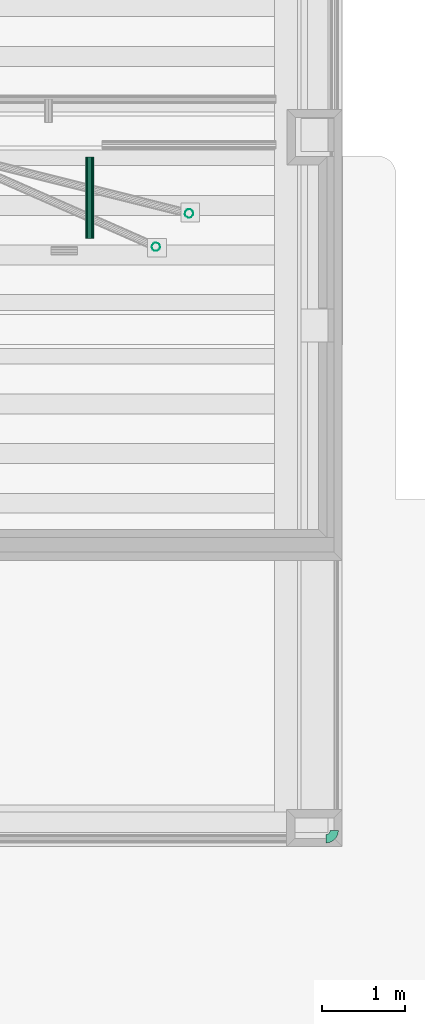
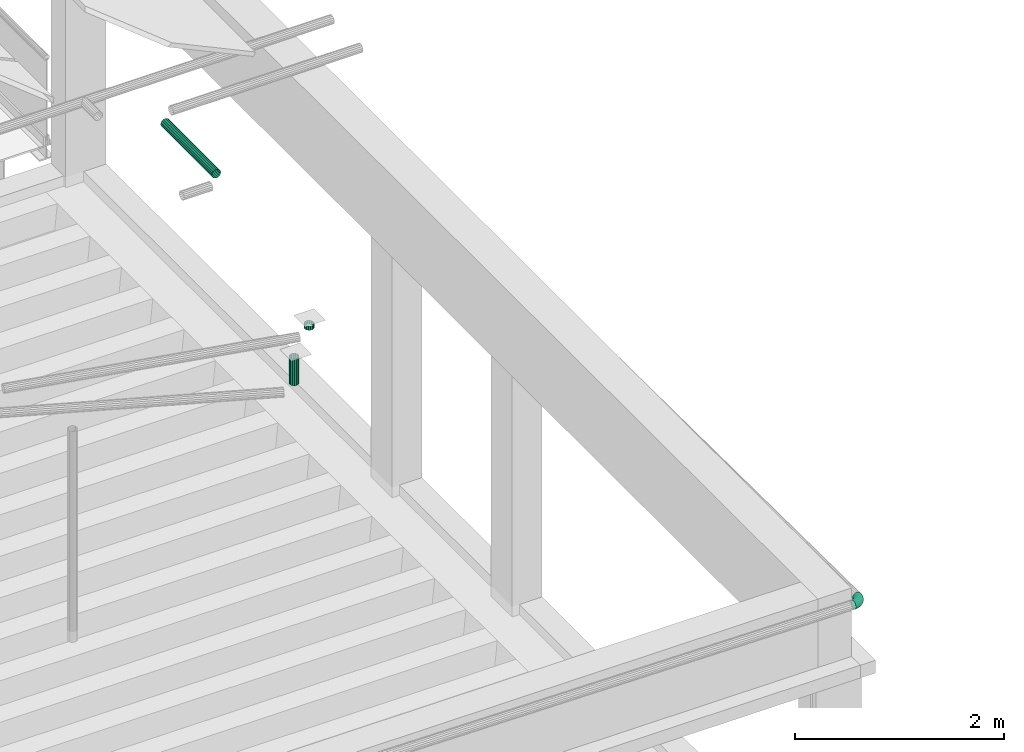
# One storey, part 93 of 106: 3 flow segments, 1 flow fitting.
"""IFC2X3 building model written with IfcOpenShell, lengths in metres."""

import ifcopenshell
import ifcopenshell.guid

model = None  # the IFC model being written
_history = None  # IfcOwnerHistory: only IFC2X3 demands one
_inside = {}  # id of a spatial element -> (the spatial element, [elements in it])
_under = {}  # id of a project, library or spatial element -> (it, [spatial elements below it])
_declared = {}  # id of a project -> (the project, [libraries it declares])
_typed = {}  # id of a type object -> (the type object, [elements of that type])
_made_of = {}  # id of a material, layer set ... -> (it, [elements and type objects made of it])


def new_model(schema):
    """Start an empty IFC model of exactly this schema.

    Asked for "IFC4X3", IfcOpenShell would pick the latest addendum, in which some entities
    have other attributes; the version numbers below select the first issue.
    IFC2X3 requires an IfcOwnerHistory on every rooted entity: one is made here for all.
    """
    global model, _history
    if schema == "IFC4X3":
        model = ifcopenshell.file(schema_version=(4, 3, 0, 0))
    else:
        model = ifcopenshell.file(schema=schema)
    _inside.clear()
    _under.clear()
    _declared.clear()
    _typed.clear()
    _made_of.clear()
    _history = None
    if model.schema == "IFC2X3":
        org = make("IfcOrganization", Name="unknown")
        user = make(
            "IfcPersonAndOrganization",
            ThePerson=make("IfcPerson", FamilyName="unknown"),
            TheOrganization=org,
        )
        app = make(
            "IfcApplication",
            ApplicationDeveloper=org,
            Version="unknown",
            ApplicationFullName="unknown",
            ApplicationIdentifier="unknown",
        )
        _history = make(
            "IfcOwnerHistory",
            OwningUser=user,
            OwningApplication=app,
            ChangeAction="ADDED",
            CreationDate=0,
        )
    return model


def make(cls, **values):
    """One entity of the class cls with the attributes given. An attribute that is None is left unset."""
    return model.create_entity(
        cls, **{name: value for name, value in values.items() if value is not None}
    )


def entity(cls, *values):
    """Any entity or typed value of the class cls, its attributes in the order of the schema. None: left unset."""
    e = model.create_entity(cls)
    for i, value in enumerate(values):
        if value is not None:
            e[i] = value
    return e


def rooted(cls, **values):
    """An entity with a GlobalId (a new one), such as an element, a storey or a relation."""
    return make(cls, GlobalId=ifcopenshell.guid.new(), OwnerHistory=_history, **values)


def si_unit(unit_type, name, prefix=None):
    """IfcSIUnit, for example si_unit("LENGTHUNIT", "METRE", prefix="MILLI")."""
    return make("IfcSIUnit", UnitType=unit_type, Prefix=prefix, Name=name)


def converted_unit(unit_type, name, factor, base, dimensions=None, offset=None):
    """IfcConversionBasedUnit, such as the inch: factor (a typed value) times the base unit."""
    return make(
        "IfcConversionBasedUnit"
        if offset is None
        else "IfcConversionBasedUnitWithOffset",
        ConversionOffset=offset,
        Dimensions=None
        if dimensions is None
        else entity("IfcDimensionalExponents", *dimensions),
        UnitType=unit_type,
        Name=name,
        ConversionFactor=make(
            "IfcMeasureWithUnit", ValueComponent=factor, UnitComponent=base
        ),
    )


def derived_unit(unit_type, elements):
    """IfcDerivedUnit: a product of units, each with its exponent."""
    return make(
        "IfcDerivedUnit",
        Elements=[
            make("IfcDerivedUnitElement", Unit=unit, Exponent=power)
            for unit, power in elements
        ],
        UnitType=unit_type,
    )


def money_unit(currency):
    """IfcMonetaryUnit."""
    return make("IfcMonetaryUnit", Currency=currency)


def assignment(units):
    """IfcUnitAssignment: the units of a project."""
    return None if units is None else make("IfcUnitAssignment", Units=units)


def point(xyz):
    """IfcCartesianPoint."""
    return None if xyz is None else make("IfcCartesianPoint", Coordinates=xyz)


def direction(xyz):
    """IfcDirection."""
    return None if xyz is None else make("IfcDirection", DirectionRatios=xyz)


def frame(location, z_axis=None, x_axis=None):
    """IfcAxis2Placement3D, a coordinate frame: its origin and axes. An axis left out is left unset."""
    return make(
        "IfcAxis2Placement3D",
        Location=point(location),
        Axis=direction(z_axis),
        RefDirection=direction(x_axis),
    )


def origin_with_axes():
    """The frame at (0, 0, 0) with the z axis (0, 0, 1) and the x axis (1, 0, 0) written out."""
    return frame((0.0, 0.0, 0.0), z_axis=(0.0, 0.0, 1.0), x_axis=(1.0, 0.0, 0.0))


def place(relative_to, where):
    """IfcLocalPlacement: puts the frame where relative to a parent placement (None: the world)."""
    return make(
        "IfcLocalPlacement", PlacementRelTo=relative_to, RelativePlacement=where
    )


def context(
    kind, dimensions, precision=None, world=None, true_north=None, identifier=None
):
    """IfcGeometricRepresentationContext, for example the 3D "Model" context."""
    return make(
        "IfcGeometricRepresentationContext",
        ContextIdentifier=identifier,
        ContextType=kind,
        CoordinateSpaceDimension=dimensions,
        Precision=precision,
        WorldCoordinateSystem=world,
        TrueNorth=true_north,
    )


def subcontext(parent, identifier, kind, view, scale=None):
    """IfcGeometricRepresentationSubContext, for example "Body" below "Model"."""
    return make(
        "IfcGeometricRepresentationSubContext",
        ContextIdentifier=identifier,
        ContextType=kind,
        ParentContext=parent,
        TargetScale=scale,
        TargetView=view,
    )


def project(units=None, contexts=None):
    """IfcProject with its units and contexts."""
    return rooted(
        "IfcProject",
        Name="project",
        RepresentationContexts=contexts,
        UnitsInContext=assignment(units),
    )


def spatial(cls, under=None, at=None, **own):
    """A site, building, storey or space (cls), placed at a placement, below another one or the project."""
    s = rooted(cls, ObjectPlacement=at, **own)
    if under is not None:
        _under.setdefault(under.id(), (under, []))[1].append(s)
    return s


def faces_of(points, faces, orient=None, outer=None):
    """IfcFace entities. A face is a list of loops; a loop is a list of indices into points, from 0.

    orient and outer hold one flag for each loop. By default every Orientation is true, the
    first loop of a face is its IfcFaceOuterBound and the others are IfcFaceBound.
    """
    made = []
    for i, loops in enumerate(faces):
        bounds = []
        for j, loop in enumerate(loops):
            is_outer = j == 0 if outer is None else outer[i][j]
            bounds.append(
                make(
                    "IfcFaceOuterBound" if is_outer else "IfcFaceBound",
                    Bound=make("IfcPolyLoop", Polygon=[points[k] for k in loop]),
                    Orientation=True if orient is None else orient[i][j],
                )
            )
        made.append(make("IfcFace", Bounds=bounds))
    return made


def open_shell(faces, orient=None, outer=None):
    """The faces of one IfcOpenShell. surface_model builds it on its shared points."""
    return ("IfcOpenShell", faces, orient, outer)


def faceted_brep(points, faces, orient=None, outer=None, voids=None):
    """IfcFacetedBrep: a solid bounded by flat faces; with voids (closed shells), ...WithVoids."""
    shared = [point(p) for p in points]
    hull = make("IfcClosedShell", CfsFaces=faces_of(shared, faces, orient, outer))
    if voids is None:
        return make("IfcFacetedBrep", Outer=hull)
    return make(
        "IfcFacetedBrepWithVoids",
        Outer=hull,
        Voids=[
            make(cls, CfsFaces=faces_of(shared, fs, o, b)) for cls, fs, o, b in voids
        ],
    )


def surface_model(cls, points, shells):
    """IfcFaceBasedSurfaceModel or IfcShellBasedSurfaceModel (cls): surfaces that need not close."""
    shared = [point(p) for p in points]
    made = [make(c, CfsFaces=faces_of(shared, fs, o, b)) for c, fs, o, b in shells]
    if cls == "IfcFaceBasedSurfaceModel":
        return make(cls, FbsmFaces=made)
    return make(cls, SbsmBoundary=made)


def shape(context_of_items, identifier, shape_type, items):
    """IfcShapeRepresentation: the items that make up one representation, for example the "Body"."""
    return make(
        "IfcShapeRepresentation",
        ContextOfItems=context_of_items,
        RepresentationIdentifier=identifier,
        RepresentationType=shape_type,
        Items=items,
    )


def material(Name=None, Category=None):
    """IfcMaterial."""
    return make("IfcMaterial", Name=Name, Category=Category)


def made_of(thing, what):
    """Note that an element or type object is made of a material, layer set ...; save() writes the relation."""
    if what is not None:
        _made_of.setdefault(what.id(), (what, []))[1].append(thing)
    return thing


def type_object(cls, material=None, **own):
    """A type object (cls), such as IfcWallType, which elements share."""
    return made_of(rooted(cls, **own), material)


def element(
    cls,
    number,
    at=None,
    inside=None,
    cuts=None,
    type_object=None,
    material=None,
    context=None,
    identifier="Body",
    shape_type=None,
    held_by="IfcProductDefinitionShape",
    body=None,
    shapes=None,
    **own,
):
    """One element of the class cls, such as IfcWall. Its Tag is "e" and its number.

    at: its placement. inside: the storey or other place that contains it. cuts: it is an
    opening in that element (IfcRelVoidsElement). A single representation is given by context,
    identifier, shape_type and body (its items); several are given by shapes. held_by: the class
    of the entity that holds the representations. save() writes the other relations.
    """
    e = rooted(cls, Tag="e%d" % number, ObjectPlacement=at, **own)
    if body is not None:
        shapes = [shape(context, identifier, shape_type, body)]
    if shapes is not None:
        e.Representation = make(held_by, Representations=shapes)
    if inside is not None:
        _inside.setdefault(inside.id(), (inside, []))[1].append(e)
    if cuts is not None:
        rooted(
            "IfcRelVoidsElement", RelatingBuildingElement=cuts, RelatedOpeningElement=e
        )
    if type_object is not None:
        _typed.setdefault(type_object.id(), (type_object, []))[1].append(e)
    return made_of(e, material)


def aggregate(whole, parts):
    """IfcRelAggregates: a whole, such as a stair, and the parts it consists of."""
    return rooted("IfcRelAggregates", RelatingObject=whole, RelatedObjects=parts)


def save(model, path):
    """Write the relations noted so far, then the file.

    IfcRelAggregates (storeys below a building ...), IfcRelContainedInSpatialStructure (elements
    in a storey), IfcRelDefinesByType, IfcRelAssociatesMaterial and IfcRelDeclares: one each for
    every whole, place, type object, material and project.
    """
    for whole, parts in _under.values():
        aggregate(whole, parts)
    for where, things in _inside.values():
        rooted(
            "IfcRelContainedInSpatialStructure",
            RelatedElements=things,
            RelatingStructure=where,
        )
    for kind, things in _typed.values():
        rooted("IfcRelDefinesByType", RelatedObjects=things, RelatingType=kind)
    for what, things in _made_of.values():
        rooted("IfcRelAssociatesMaterial", RelatedObjects=things, RelatingMaterial=what)
    for by, libraries in _declared.values():
        rooted("IfcRelDeclares", RelatingContext=by, RelatedDefinitions=libraries)
    model.write(path)


model = new_model("IFC2X3")

# Units and contexts
model_context = context("Model", 3, precision=1e-05, world=origin_with_axes(), true_north=direction((0.0, 1.0)))
body_context = subcontext(model_context, "Body", "Model", "MODEL_VIEW", scale=1.0)
ifc_project = project(units=[si_unit("LENGTHUNIT", "METRE"), si_unit("AREAUNIT", "SQUARE_METRE"), si_unit("VOLUMEUNIT", "CUBIC_METRE"), si_unit("ABSORBEDDOSEUNIT", "GRAY"), si_unit("AMOUNTOFSUBSTANCEUNIT", "MOLE"), si_unit("DOSEEQUIVALENTUNIT", "SIEVERT"), si_unit("ELECTRICCAPACITANCEUNIT", "FARAD"), si_unit("ELECTRICCHARGEUNIT", "COULOMB"), si_unit("ELECTRICCONDUCTANCEUNIT", "SIEMENS"), si_unit("ELECTRICCURRENTUNIT", "AMPERE"), si_unit("ELECTRICRESISTANCEUNIT", "OHM"), si_unit("ELECTRICVOLTAGEUNIT", "VOLT"), si_unit("ENERGYUNIT", "JOULE"), si_unit("FORCEUNIT", "NEWTON"), si_unit("FREQUENCYUNIT", "HERTZ"), si_unit("ILLUMINANCEUNIT", "LUX"), si_unit("INDUCTANCEUNIT", "HENRY"), si_unit("LUMINOUSFLUXUNIT", "LUMEN"), si_unit("LUMINOUSINTENSITYUNIT", "CANDELA"), si_unit("MAGNETICFLUXDENSITYUNIT", "TESLA"), si_unit("MAGNETICFLUXUNIT", "WEBER"), si_unit("MASSUNIT", "GRAM"), converted_unit("PLANEANGLEUNIT", "degree", entity("IfcReal", 0.0174532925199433), si_unit("PLANEANGLEUNIT", "RADIAN"), dimensions=[0, 0, 0, 0, 0, 0, 0]), si_unit("POWERUNIT", "WATT"), si_unit("PRESSUREUNIT", "PASCAL"), si_unit("RADIOACTIVITYUNIT", "BECQUEREL"), si_unit("SOLIDANGLEUNIT", "STERADIAN"), si_unit("THERMODYNAMICTEMPERATUREUNIT", "KELVIN"), si_unit("TIMEUNIT", "SECOND"), derived_unit("ACCELERATIONUNIT", [(si_unit("LENGTHUNIT", "METRE"), 1), (si_unit("TIMEUNIT", "SECOND"), -2)]), derived_unit("ANGULARVELOCITYUNIT", [(converted_unit("PLANEANGLEUNIT", "degree", entity("IfcReal", 0.0174532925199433), si_unit("PLANEANGLEUNIT", "RADIAN"), dimensions=[0, 0, 0, 0, 0, 0, 0]), 1), (si_unit("TIMEUNIT", "SECOND"), -1)]), derived_unit("CURVATUREUNIT", [(converted_unit("PLANEANGLEUNIT", "degree", entity("IfcReal", 0.0174532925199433), si_unit("PLANEANGLEUNIT", "RADIAN"), dimensions=[0, 0, 0, 0, 0, 0, 0]), 1), (si_unit("LENGTHUNIT", "METRE"), -1)]), derived_unit("DYNAMICVISCOSITYUNIT", [(si_unit("PRESSUREUNIT", "PASCAL"), 1), (si_unit("TIMEUNIT", "SECOND"), 1)]), derived_unit("HEATFLUXDENSITYUNIT", [(si_unit("POWERUNIT", "WATT"), 1), (si_unit("LENGTHUNIT", "METRE"), -2)]), derived_unit("HEATINGVALUEUNIT", [(si_unit("ENERGYUNIT", "JOULE"), 1), (si_unit("MASSUNIT", "GRAM"), -1)]), derived_unit("INTEGERCOUNTRATEUNIT", [(si_unit("TIMEUNIT", "SECOND"), -1)]), derived_unit("IONCONCENTRATIONUNIT", [(si_unit("MASSUNIT", "GRAM"), 1), (si_unit("VOLUMEUNIT", "CUBIC_METRE"), -1)]), derived_unit("ISOTHERMALMOISTURECAPACITYUNIT", [(si_unit("VOLUMEUNIT", "CUBIC_METRE"), 1), (si_unit("MASSUNIT", "GRAM"), -1)]), derived_unit("KINEMATICVISCOSITYUNIT", [(si_unit("AREAUNIT", "SQUARE_METRE"), 1), (si_unit("TIMEUNIT", "SECOND"), -1)]), derived_unit("LINEARFORCEUNIT", [(si_unit("FORCEUNIT", "NEWTON"), 1), (si_unit("LENGTHUNIT", "METRE"), -1)]), derived_unit("LINEARMOMENTUNIT", [(si_unit("FORCEUNIT", "NEWTON"), 1), (si_unit("LENGTHUNIT", "METRE"), -1)]), derived_unit("LINEARSTIFFNESSUNIT", [(si_unit("FORCEUNIT", "NEWTON"), 1), (si_unit("LENGTHUNIT", "METRE"), -1)]), derived_unit("LINEARVELOCITYUNIT", [(si_unit("LENGTHUNIT", "METRE"), 1), (si_unit("TIMEUNIT", "SECOND"), -1)]), derived_unit("LUMINOUSINTENSITYDISTRIBUTIONUNIT", [(si_unit("LUMINOUSINTENSITYUNIT", "CANDELA"), 1), (si_unit("LUMINOUSFLUXUNIT", "LUMEN"), -1)]), derived_unit("MASSDENSITYUNIT", [(si_unit("MASSUNIT", "GRAM"), 1), (si_unit("VOLUMEUNIT", "CUBIC_METRE"), -1)]), derived_unit("MASSFLOWRATEUNIT", [(si_unit("MASSUNIT", "GRAM"), 1), (si_unit("TIMEUNIT", "SECOND"), -1)]), derived_unit("MASSPERLENGTHUNIT", [(si_unit("MASSUNIT", "GRAM"), 1), (si_unit("LENGTHUNIT", "METRE"), -1)]), derived_unit("MODULUSOFELASTICITYUNIT", [(si_unit("FORCEUNIT", "NEWTON"), 1), (si_unit("AREAUNIT", "SQUARE_METRE"), -1)]), derived_unit("MODULUSOFLINEARSUBGRADEREACTIONUNIT", [(si_unit("FORCEUNIT", "NEWTON"), 1), (si_unit("LENGTHUNIT", "METRE"), -2)]), derived_unit("MODULUSOFROTATIONALSUBGRADEREACTIONUNIT", [(si_unit("FORCEUNIT", "NEWTON"), 1), (si_unit("LENGTHUNIT", "METRE"), 1)]), derived_unit("MODULUSOFSUBGRADEREACTIONUNIT", [(si_unit("FORCEUNIT", "NEWTON"), 1), (si_unit("VOLUMEUNIT", "CUBIC_METRE"), -1)]), derived_unit("MOISTUREDIFFUSIVITYUNIT", [(si_unit("VOLUMEUNIT", "CUBIC_METRE"), 1), (si_unit("TIMEUNIT", "SECOND"), -1)]), derived_unit("MOLECULARWEIGHTUNIT", [(si_unit("MASSUNIT", "GRAM"), 1), (si_unit("AMOUNTOFSUBSTANCEUNIT", "MOLE"), -1)]), derived_unit("PLANARFORCEUNIT", [(si_unit("FORCEUNIT", "NEWTON"), 1), (si_unit("LENGTHUNIT", "METRE"), -2)]), derived_unit("ROTATIONALFREQUENCYUNIT", [(si_unit("TIMEUNIT", "SECOND"), -1)]), derived_unit("ROTATIONALMASSUNIT", [(si_unit("MASSUNIT", "GRAM"), 1), (si_unit("LENGTHUNIT", "METRE"), 2)]), derived_unit("ROTATIONALSTIFFNESSUNIT", [(si_unit("FORCEUNIT", "NEWTON"), 1), (si_unit("LENGTHUNIT", "METRE"), 1), (converted_unit("PLANEANGLEUNIT", "degree", entity("IfcReal", 0.0174532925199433), si_unit("PLANEANGLEUNIT", "RADIAN"), dimensions=[0, 0, 0, 0, 0, 0, 0]), -1)]), derived_unit("SECTIONAREAINTEGRALUNIT", [(si_unit("LENGTHUNIT", "METRE"), 5)]), derived_unit("SECTIONMODULUSUNIT", [(si_unit("LENGTHUNIT", "METRE"), 3)]), derived_unit("SHEARMODULUSUNIT", [(si_unit("FORCEUNIT", "NEWTON"), 1), (si_unit("AREAUNIT", "SQUARE_METRE"), -1)]), derived_unit("SOUNDPOWERUNIT", [(si_unit("ENERGYUNIT", "JOULE"), 1), (si_unit("TIMEUNIT", "SECOND"), -1)]), derived_unit("SPECIFICHEATCAPACITYUNIT", [(si_unit("FORCEUNIT", "NEWTON"), 1), (si_unit("MASSUNIT", "GRAM"), -1), (si_unit("THERMODYNAMICTEMPERATUREUNIT", "KELVIN"), -1)]), derived_unit("TEMPERATUREGRADIENTUNIT", [(si_unit("THERMODYNAMICTEMPERATUREUNIT", "KELVIN"), 1), (si_unit("LENGTHUNIT", "METRE"), -1)]), derived_unit("THERMALADMITTANCEUNIT", [(si_unit("POWERUNIT", "WATT"), 1), (si_unit("AREAUNIT", "SQUARE_METRE"), -1), (si_unit("THERMODYNAMICTEMPERATUREUNIT", "KELVIN"), -1)]), derived_unit("THERMALCONDUCTANCEUNIT", [(si_unit("POWERUNIT", "WATT"), 1), (si_unit("LENGTHUNIT", "METRE"), -1), (si_unit("THERMODYNAMICTEMPERATUREUNIT", "KELVIN"), -1)]), derived_unit("THERMALEXPANSIONCOEFFICIENTUNIT", [(si_unit("THERMODYNAMICTEMPERATUREUNIT", "KELVIN"), -1)]), derived_unit("THERMALRESISTANCEUNIT", [(si_unit("AREAUNIT", "SQUARE_METRE"), 1), (si_unit("POWERUNIT", "WATT"), -1)]), derived_unit("THERMALTRANSMITTANCEUNIT", [(si_unit("POWERUNIT", "WATT"), 1), (si_unit("AREAUNIT", "SQUARE_METRE"), -1), (si_unit("THERMODYNAMICTEMPERATUREUNIT", "KELVIN"), -1)]), derived_unit("TORQUEUNIT", [(si_unit("FORCEUNIT", "NEWTON"), 1), (si_unit("LENGTHUNIT", "METRE"), 1)]), derived_unit("VAPORPERMEABILITYUNIT", [(si_unit("MASSUNIT", "GRAM"), 1), (si_unit("TIMEUNIT", "SECOND"), -1)]), derived_unit("VOLUMETRICFLOWRATEUNIT", [(si_unit("VOLUMEUNIT", "CUBIC_METRE"), 1), (si_unit("TIMEUNIT", "SECOND"), -1)]), derived_unit("WARPINGCONSTANTUNIT", [(si_unit("LENGTHUNIT", "METRE"), 6)]), derived_unit("WARPINGMOMENTUNIT", [(si_unit("FORCEUNIT", "NEWTON"), 1), (si_unit("LENGTHUNIT", "METRE"), 2)]), money_unit("GBP")], contexts=[model_context])

# Site, building, storey
site_placement = place(None, origin_with_axes())
site = spatial("IfcSite", under=ifc_project, at=site_placement, Name="Site", CompositionType="ELEMENT")
building_placement = place(site_placement, origin_with_axes())
building = spatial("IfcBuilding", under=site, at=building_placement, Name="Building01", CompositionType="ELEMENT")
storey_placement = place(building_placement, origin_with_axes())
storey = spatial("IfcBuildingStorey", under=building, at=storey_placement, Name="GF", CompositionType="ELEMENT", Elevation=0.0)

# Flow segments
ifc_material_1 = material(Name="M_BSUK_Ventilation")
duct_segment_type = type_object("IfcDuctSegmentType", Name="M-RoundDuct", PredefinedType="RIGIDSEGMENT")
flow_segment_1_placement = place(storey_placement, frame((23.93, 8.332559, 17.28), z_axis=(0.0, 0.0, 1.0), x_axis=(0.0, -1.0, 0.0)))
element("IfcFlowSegment", 1, at=flow_segment_1_placement, inside=storey, type_object=duct_segment_type, material=ifc_material_1, Name="M-RoundDuct", ObjectType="M-RoundDuct", context=body_context, shape_type="Brep", body=[
    faceted_brep([(0.982619, 0.0, -0.05), (0.0, 0.0, -0.05), (0.0, 0.019134, -0.046194), (0.982619, 0.019134, -0.046194), (0.0, 0.035355, -0.035355), (0.982619, 0.035355, -0.035355), (0.0, 0.046194, -0.019134), (0.982619, 0.046194, -0.019134), (0.0, 0.05, 0.0), (0.982619, 0.05, 0.0), (0.0, 0.046194, 0.019134), (0.982619, 0.046194, 0.019134), (0.0, 0.035355, 0.035355), (0.982619, 0.035355, 0.035355), (0.0, 0.019134, 0.046194), (0.982619, 0.019134, 0.046194), (0.0, 0.0, 0.05), (0.982619, 0.0, 0.05), (0.0, -0.019134, 0.046194), (0.982619, -0.019134, 0.046194), (0.0, -0.035355, 0.035355), (0.982619, -0.035355, 0.035355), (0.0, -0.046194, 0.019134), (0.982619, -0.046194, 0.019134), (0.0, -0.05, 0.0), (0.982619, -0.05, 0.0), (0.0, -0.046194, -0.019134), (0.982619, -0.046194, -0.019134), (0.0, -0.035355, -0.035355), (0.982619, -0.035355, -0.035355), (0.0, -0.019134, -0.046194), (0.982619, -0.019134, -0.046194)], [[[0, 1, 2, 3]], [[3, 2, 4, 5]], [[5, 4, 6, 7]], [[7, 6, 8, 9]], [[9, 8, 10, 11]], [[11, 10, 12, 13]], [[13, 12, 14, 15]], [[15, 14, 16, 17]], [[17, 16, 18, 19]], [[19, 18, 20, 21]], [[21, 20, 22, 23]], [[23, 22, 24, 25]], [[25, 24, 26, 27]], [[27, 26, 28, 29]], [[29, 28, 30, 31]], [[31, 30, 1, 0]]]),
])
ifc_material_2 = material(Name="M_BSUK_ColdWater")
pipe_segment_type = type_object("IfcPipeSegmentType", Name="M-BmpStraightpipe-DefaultPipe", PredefinedType="RIGIDSEGMENT")
flow_segment_2_placement = place(storey_placement, frame((25.13, 7.651472, 14.93), z_axis=(0.96788929, -0.25137684, 0.0), x_axis=(0.0, 0.0, -1.0)))
element("IfcFlowSegment", 2, at=flow_segment_2_placement, inside=storey, type_object=pipe_segment_type, material=ifc_material_2, Name="M-BmpStraightpipe-DefaultPipe", ObjectType="M-BmpStraightpipe-DefaultPipe", context=body_context, shape_type="Brep", body=[
    faceted_brep([(0.05, 0.0, -0.05), (0.0, 0.0, -0.05), (0.0, 0.019134, -0.046194), (0.05, 0.019134, -0.046194), (0.0, 0.035355, -0.035355), (0.05, 0.035355, -0.035355), (0.0, 0.046194, -0.019134), (0.05, 0.046194, -0.019134), (0.0, 0.05, 0.0), (0.05, 0.05, 0.0), (0.0, 0.046194, 0.019134), (0.05, 0.046194, 0.019134), (0.0, 0.035355, 0.035355), (0.05, 0.035355, 0.035355), (0.0, 0.019134, 0.046194), (0.05, 0.019134, 0.046194), (0.0, 0.0, 0.05), (0.05, 0.0, 0.05), (0.0, -0.019134, 0.046194), (0.05, -0.019134, 0.046194), (0.0, -0.035355, 0.035355), (0.05, -0.035355, 0.035355), (0.0, -0.046194, 0.019134), (0.05, -0.046194, 0.019134), (0.0, -0.05, 0.0), (0.05, -0.05, 0.0), (0.0, -0.046194, -0.019134), (0.05, -0.046194, -0.019134), (0.0, -0.035355, -0.035355), (0.05, -0.035355, -0.035355), (0.0, -0.019134, -0.046194), (0.05, -0.019134, -0.046194)], [[[0, 1, 2, 3]], [[3, 2, 4, 5]], [[5, 4, 6, 7]], [[7, 6, 8, 9]], [[9, 8, 10, 11]], [[11, 10, 12, 13]], [[13, 12, 14, 15]], [[15, 14, 16, 17]], [[17, 16, 18, 19]], [[19, 18, 20, 21]], [[21, 20, 22, 23]], [[23, 22, 24, 25]], [[25, 24, 26, 27]], [[27, 26, 28, 29]], [[29, 28, 30, 31]], [[31, 30, 1, 0]]]),
])
flow_segment_3_placement = place(storey_placement, frame((24.73, 7.248528, 14.93), z_axis=(0.66617726, -0.74579344, 0.0), x_axis=(0.0, 0.0, -1.0)))
element("IfcFlowSegment", 3, at=flow_segment_3_placement, inside=storey, type_object=pipe_segment_type, material=ifc_material_2, Name="M-BmpStraightpipe-DefaultPipe", ObjectType="M-BmpStraightpipe-DefaultPipe", context=body_context, shape_type="Brep", body=[
    faceted_brep([(0.315312, 0.0, -0.05), (0.0, 0.0, -0.05), (0.0, 0.019134, -0.046194), (0.315312, 0.019134, -0.046194), (0.0, 0.035355, -0.035355), (0.315312, 0.035355, -0.035355), (0.0, 0.046194, -0.019134), (0.315312, 0.046194, -0.019134), (0.0, 0.05, 0.0), (0.315312, 0.05, 0.0), (0.0, 0.046194, 0.019134), (0.315312, 0.046194, 0.019134), (0.0, 0.035355, 0.035355), (0.315312, 0.035355, 0.035355), (0.0, 0.019134, 0.046194), (0.315312, 0.019134, 0.046194), (0.0, 0.0, 0.05), (0.315312, 0.0, 0.05), (0.0, -0.019134, 0.046194), (0.315312, -0.019134, 0.046194), (0.0, -0.035355, 0.035355), (0.315312, -0.035355, 0.035355), (0.0, -0.046194, 0.019134), (0.315312, -0.046194, 0.019134), (0.0, -0.05, 0.0), (0.315312, -0.05, 0.0), (0.0, -0.046194, -0.019134), (0.315312, -0.046194, -0.019134), (0.0, -0.035355, -0.035355), (0.315312, -0.035355, -0.035355), (0.0, -0.019134, -0.046194), (0.315312, -0.019134, -0.046194)], [[[0, 1, 2, 3]], [[3, 2, 4, 5]], [[5, 4, 6, 7]], [[7, 6, 8, 9]], [[9, 8, 10, 11]], [[11, 10, 12, 13]], [[13, 12, 14, 15]], [[15, 14, 16, 17]], [[17, 16, 18, 19]], [[19, 18, 20, 21]], [[21, 20, 22, 23]], [[23, 22, 24, 25]], [[25, 24, 26, 27]], [[27, 26, 28, 29]], [[29, 28, 30, 31]], [[31, 30, 1, 0]]]),
])

# Flow fitting
pipe_fitting_type = type_object("IfcPipeFittingType", Name="M-BmpElbow-DefaultElbow", PredefinedType="BEND")
flow_fitting_placement = place(storey_placement, frame((26.885, 0.19497, 15.640002), z_axis=(1.0, 0.0, 0.0), x_axis=(0.0, 1.0, 0.0)))
element("IfcFlowFitting", 4, at=flow_fitting_placement, inside=storey, type_object=pipe_fitting_type, material=ifc_material_2, Name="M-BmpElbow-DefaultElbow", ObjectType="M-BmpElbow-DefaultElbow", context=body_context, shape_type="SurfaceModel", body=[
    surface_model("IfcShellBasedSurfaceModel", [(-0.008009, -0.01349, -0.048768), (0.0, -0.01349, -0.048146), (0.0, 0.0, -0.05), (-0.007723, 0.0, -0.0506), (-0.015826, -0.01349, -0.05062), (-0.015261, 0.0, -0.052386), (-0.023264, -0.01349, -0.053657), (-0.022432, 0.0, -0.055314), (-0.030143, -0.01349, -0.057807), (-0.029065, 0.0, -0.059315), (-0.036298, -0.01349, -0.062969), (-0.035, 0.0, -0.064293), (-0.041582, -0.01349, -0.06902), (-0.040095, 0.0, -0.070127), (-0.045868, -0.01349, -0.075814), (-0.044228, 0.0, -0.076679), (-0.049054, -0.01349, -0.083189), (-0.0473, 0.0, -0.08379), (-0.051061, -0.01349, -0.090968), (-0.049236, 0.0, -0.091291), (-0.051844, -0.01349, -0.098963), (-0.04999, 0.0, -0.099), (-0.008847, -0.025979, -0.043408), (0.0, -0.025979, -0.042721), (-0.017482, -0.025979, -0.045454), (-0.025697, -0.025979, -0.048809), (-0.033296, -0.025979, -0.053392), (-0.040095, -0.025979, -0.059095), (-0.045932, -0.025979, -0.065779), (-0.050667, -0.025979, -0.073284), (-0.054185, -0.025979, -0.081431), (-0.056403, -0.025979, -0.090023), (-0.057268, -0.025979, -0.098855), (-0.010175, -0.036542, -0.034918), (0.0, -0.036542, -0.034128), (-0.020105, -0.036542, -0.037271), (-0.029553, -0.036542, -0.041129), (-0.038291, -0.036542, -0.0464), (-0.046111, -0.036542, -0.052958), (-0.052823, -0.036542, -0.060645), (-0.058268, -0.036542, -0.069276), (-0.062315, -0.036542, -0.078645), (-0.064865, -0.036542, -0.088526), (-0.065859, -0.036542, -0.098683), (-0.011893, -0.044394, -0.023927), (0.0, -0.044394, -0.023003), (-0.0235, -0.044394, -0.026677), (-0.034544, -0.044394, -0.031187), (-0.044758, -0.044394, -0.037348), (-0.053898, -0.044394, -0.045013), (-0.061744, -0.044394, -0.053998), (-0.068109, -0.044394, -0.064087), (-0.072838, -0.044394, -0.075038), (-0.07582, -0.044394, -0.086588), (-0.076981, -0.044394, -0.09846), (-0.013875, -0.048954, -0.011251), (0.0, -0.048954, -0.010173), (-0.027416, -0.048954, -0.014459), (-0.0403, -0.048954, -0.01972), (-0.052216, -0.048954, -0.026908), (-0.062879, -0.048954, -0.035851), (-0.072033, -0.048954, -0.046333), (-0.079458, -0.048954, -0.058103), (-0.084976, -0.048954, -0.070879), (-0.088454, -0.048954, -0.084353), (-0.089809, -0.048954, -0.098204), (-0.015973, -0.049883, 0.002171), (0.0, -0.049883, 0.003412), (-0.031562, -0.049883, -0.001522), (-0.046394, -0.049883, -0.007579), (-0.060113, -0.049883, -0.015854), (-0.072389, -0.049883, -0.026149), (-0.082927, -0.049883, -0.038216), (-0.091475, -0.049883, -0.051767), (-0.097827, -0.049883, -0.066475), (-0.101831, -0.049883, -0.081987), (-0.103391, -0.049883, -0.097932), (-0.018032, -0.047113, 0.015343), (0.0, -0.047113, 0.016744), (-0.035632, -0.047113, 0.011174), (-0.052376, -0.047113, 0.004336), (-0.067863, -0.047113, -0.005006), (-0.081721, -0.047113, -0.016628), (-0.093618, -0.047113, -0.030251), (-0.103268, -0.047113, -0.045548), (-0.110439, -0.047113, -0.062153), (-0.114959, -0.047113, -0.079665), (-0.116721, -0.047113, -0.097665), (-0.0199, -0.040848, 0.027288), (0.0, -0.040848, 0.028834), (-0.039322, -0.040848, 0.022687), (-0.0578, -0.040848, 0.015141), (-0.074891, -0.040848, 0.004831), (-0.090184, -0.040848, -0.007994), (-0.103313, -0.040848, -0.023028), (-0.113962, -0.040848, -0.039909), (-0.121876, -0.040848, -0.058233), (-0.126865, -0.040848, -0.077559), (-0.128808, -0.040848, -0.097424), (-0.021437, -0.031554, 0.03712), (0.0, -0.031554, 0.038786), (-0.042359, -0.031554, 0.032163), (-0.062264, -0.031554, 0.024035), (-0.080675, -0.031554, 0.012929), (-0.09715, -0.031554, -0.000887), (-0.111293, -0.031554, -0.017083), (-0.122765, -0.031554, -0.035268), (-0.13129, -0.031554, -0.055007), (-0.136664, -0.031554, -0.075826), (-0.138758, -0.031554, -0.097225), (-0.022529, -0.01992, 0.04411), (0.0, -0.01992, 0.045861), (-0.044518, -0.01992, 0.038901), (-0.065438, -0.01992, 0.030358), (-0.084788, -0.01992, 0.018686), (-0.102103, -0.01992, 0.004165), (-0.116966, -0.01992, -0.012856), (-0.129023, -0.01992, -0.031968), (-0.137983, -0.01992, -0.052713), (-0.143631, -0.01992, -0.074593), (-0.145831, -0.01992, -0.097083), (-0.023097, -0.006808, 0.04774), (0.0, -0.006808, 0.049534), (-0.045639, -0.006808, 0.042399), (-0.067087, -0.006808, 0.033641), (-0.086924, -0.006808, 0.021675), (-0.104674, -0.006808, 0.006789), (-0.119912, -0.006808, -0.010661), (-0.132273, -0.006808, -0.030254), (-0.141458, -0.006808, -0.051522), (-0.147248, -0.006808, -0.073953), (-0.149504, -0.006808, -0.09701), (-0.023097, 0.006808, 0.04774), (0.0, 0.006808, 0.049534), (-0.045639, 0.006808, 0.042399), (-0.067087, 0.006808, 0.033641), (-0.086924, 0.006808, 0.021675), (-0.104674, 0.006808, 0.006789), (-0.119912, 0.006808, -0.010661), (-0.132273, 0.006808, -0.030254), (-0.141458, 0.006808, -0.051522), (-0.147248, 0.006808, -0.073953), (-0.149504, 0.006808, -0.09701), (-0.022529, 0.01992, 0.04411), (0.0, 0.01992, 0.045861), (-0.044518, 0.01992, 0.038901), (-0.065438, 0.01992, 0.030358), (-0.084788, 0.01992, 0.018686), (-0.102103, 0.01992, 0.004165), (-0.116966, 0.01992, -0.012856), (-0.129023, 0.01992, -0.031968), (-0.137983, 0.01992, -0.052713), (-0.143631, 0.01992, -0.074593), (-0.145831, 0.01992, -0.097083), (-0.021437, 0.031554, 0.03712), (0.0, 0.031554, 0.038786), (-0.042359, 0.031554, 0.032163), (-0.062264, 0.031554, 0.024035), (-0.080675, 0.031554, 0.012929), (-0.09715, 0.031554, -0.000887), (-0.111293, 0.031554, -0.017083), (-0.122765, 0.031554, -0.035268), (-0.13129, 0.031554, -0.055007), (-0.136664, 0.031554, -0.075826), (-0.138758, 0.031554, -0.097225), (-0.0199, 0.040848, 0.027288), (0.0, 0.040848, 0.028834), (-0.039322, 0.040848, 0.022687), (-0.0578, 0.040848, 0.015141), (-0.074891, 0.040848, 0.004831), (-0.090184, 0.040848, -0.007994), (-0.103313, 0.040848, -0.023028), (-0.113962, 0.040848, -0.039909), (-0.121876, 0.040848, -0.058233), (-0.126865, 0.040848, -0.077559), (-0.128808, 0.040848, -0.097424), (-0.018032, 0.047113, 0.015343), (0.0, 0.047113, 0.016744), (-0.035632, 0.047113, 0.011174), (-0.052376, 0.047113, 0.004336), (-0.067863, 0.047113, -0.005006), (-0.081721, 0.047113, -0.016628), (-0.093618, 0.047113, -0.030251), (-0.103268, 0.047113, -0.045548), (-0.110439, 0.047113, -0.062153), (-0.114959, 0.047113, -0.079665), (-0.116721, 0.047113, -0.097665), (-0.015973, 0.049883, 0.002171), (0.0, 0.049883, 0.003412), (-0.031562, 0.049883, -0.001522), (-0.046394, 0.049883, -0.007579), (-0.060113, 0.049883, -0.015854), (-0.072389, 0.049883, -0.026149), (-0.082927, 0.049883, -0.038216), (-0.091475, 0.049883, -0.051767), (-0.097827, 0.049883, -0.066475), (-0.101831, 0.049883, -0.081987), (-0.103391, 0.049883, -0.097932), (-0.013875, 0.048954, -0.011251), (0.0, 0.048954, -0.010173), (-0.027416, 0.048954, -0.014459), (-0.0403, 0.048954, -0.01972), (-0.052216, 0.048954, -0.026908), (-0.062879, 0.048954, -0.035851), (-0.072033, 0.048954, -0.046333), (-0.079458, 0.048954, -0.058103), (-0.084976, 0.048954, -0.070879), (-0.088454, 0.048954, -0.084353), (-0.089809, 0.048954, -0.098204), (-0.011893, 0.044394, -0.023927), (0.0, 0.044394, -0.023003), (-0.0235, 0.044394, -0.026677), (-0.034544, 0.044394, -0.031187), (-0.044758, 0.044394, -0.037348), (-0.053898, 0.044394, -0.045013), (-0.061744, 0.044394, -0.053998), (-0.068109, 0.044394, -0.064087), (-0.072838, 0.044394, -0.075038), (-0.07582, 0.044394, -0.086588), (-0.076981, 0.044394, -0.09846), (-0.010175, 0.036542, -0.034918), (0.0, 0.036542, -0.034128), (-0.020105, 0.036542, -0.037271), (-0.029553, 0.036542, -0.041129), (-0.038291, 0.036542, -0.0464), (-0.046111, 0.036542, -0.052958), (-0.052823, 0.036542, -0.060645), (-0.058268, 0.036542, -0.069276), (-0.062315, 0.036542, -0.078645), (-0.064865, 0.036542, -0.088526), (-0.065859, 0.036542, -0.098683), (-0.008847, 0.025979, -0.043408), (0.0, 0.025979, -0.042721), (-0.017482, 0.025979, -0.045454), (-0.025697, 0.025979, -0.048809), (-0.033296, 0.025979, -0.053392), (-0.040095, 0.025979, -0.059095), (-0.045932, 0.025979, -0.065779), (-0.050667, 0.025979, -0.073284), (-0.054185, 0.025979, -0.081431), (-0.056403, 0.025979, -0.090023), (-0.057268, 0.025979, -0.098855), (-0.008009, 0.01349, -0.048768), (0.0, 0.01349, -0.048146), (-0.015826, 0.01349, -0.05062), (-0.023264, 0.01349, -0.053657), (-0.030143, 0.01349, -0.057807), (-0.036298, 0.01349, -0.062969), (-0.041582, 0.01349, -0.06902), (-0.045868, 0.01349, -0.075814), (-0.049054, 0.01349, -0.083189), (-0.051061, 0.01349, -0.090968), (-0.051844, 0.01349, -0.098963)], [open_shell([[[0, 1, 2, 3]], [[4, 0, 3, 5]], [[6, 4, 5, 7]], [[8, 6, 7, 9]], [[10, 8, 9, 11]], [[12, 10, 11, 13]], [[14, 12, 13, 15]], [[16, 14, 15, 17]], [[18, 16, 17, 19]], [[20, 18, 19, 21]], [[22, 23, 1, 0]], [[24, 22, 0, 4]], [[25, 24, 4, 6]], [[26, 25, 6, 8]], [[27, 26, 8, 10]], [[28, 27, 10, 12]], [[29, 28, 12, 14]], [[30, 29, 14, 16]], [[31, 30, 16, 18]], [[32, 31, 18, 20]], [[33, 34, 23, 22]], [[35, 33, 22, 24]], [[36, 35, 24, 25]], [[37, 36, 25, 26]], [[38, 37, 26, 27]], [[39, 38, 27, 28]], [[40, 39, 28, 29]], [[41, 40, 29, 30]], [[42, 41, 30, 31]], [[43, 42, 31, 32]], [[44, 45, 34, 33]], [[46, 44, 33, 35]], [[47, 46, 35, 36]], [[48, 47, 36, 37]], [[49, 48, 37, 38]], [[50, 49, 38, 39]], [[51, 50, 39, 40]], [[52, 51, 40, 41]], [[53, 52, 41, 42]], [[54, 53, 42, 43]], [[55, 56, 45, 44]], [[57, 55, 44, 46]], [[58, 57, 46, 47]], [[59, 58, 47, 48]], [[60, 59, 48, 49]], [[61, 60, 49, 50]], [[62, 61, 50, 51]], [[63, 62, 51, 52]], [[64, 63, 52, 53]], [[65, 64, 53, 54]], [[66, 67, 56, 55]], [[68, 66, 55, 57]], [[69, 68, 57, 58]], [[70, 69, 58, 59]], [[71, 70, 59, 60]], [[72, 71, 60, 61]], [[73, 72, 61, 62]], [[74, 73, 62, 63]], [[75, 74, 63, 64]], [[76, 75, 64, 65]], [[77, 78, 67, 66]], [[79, 77, 66, 68]], [[80, 79, 68, 69]], [[81, 80, 69, 70]], [[82, 81, 70, 71]], [[83, 82, 71, 72]], [[84, 83, 72, 73]], [[85, 84, 73, 74]], [[86, 85, 74, 75]], [[87, 86, 75, 76]], [[88, 89, 78, 77]], [[90, 88, 77, 79]], [[91, 90, 79, 80]], [[92, 91, 80, 81]], [[93, 92, 81, 82]], [[94, 93, 82, 83]], [[95, 94, 83, 84]], [[96, 95, 84, 85]], [[97, 96, 85, 86]], [[98, 97, 86, 87]], [[99, 100, 89, 88]], [[101, 99, 88, 90]], [[102, 101, 90, 91]], [[103, 102, 91, 92]], [[104, 103, 92, 93]], [[105, 104, 93, 94]], [[106, 105, 94, 95]], [[107, 106, 95, 96]], [[108, 107, 96, 97]], [[109, 108, 97, 98]], [[110, 111, 100, 99]], [[112, 110, 99, 101]], [[113, 112, 101, 102]], [[114, 113, 102, 103]], [[115, 114, 103, 104]], [[116, 115, 104, 105]], [[117, 116, 105, 106]], [[118, 117, 106, 107]], [[119, 118, 107, 108]], [[120, 119, 108, 109]], [[121, 122, 111, 110]], [[123, 121, 110, 112]], [[124, 123, 112, 113]], [[125, 124, 113, 114]], [[126, 125, 114, 115]], [[127, 126, 115, 116]], [[128, 127, 116, 117]], [[129, 128, 117, 118]], [[130, 129, 118, 119]], [[131, 130, 119, 120]], [[132, 133, 122, 121]], [[134, 132, 121, 123]], [[135, 134, 123, 124]], [[136, 135, 124, 125]], [[137, 136, 125, 126]], [[138, 137, 126, 127]], [[139, 138, 127, 128]], [[140, 139, 128, 129]], [[141, 140, 129, 130]], [[142, 141, 130, 131]], [[143, 144, 133, 132]], [[145, 143, 132, 134]], [[146, 145, 134, 135]], [[147, 146, 135, 136]], [[148, 147, 136, 137]], [[149, 148, 137, 138]], [[150, 149, 138, 139]], [[151, 150, 139, 140]], [[152, 151, 140, 141]], [[153, 152, 141, 142]], [[154, 155, 144, 143]], [[156, 154, 143, 145]], [[157, 156, 145, 146]], [[158, 157, 146, 147]], [[159, 158, 147, 148]], [[160, 159, 148, 149]], [[161, 160, 149, 150]], [[162, 161, 150, 151]], [[163, 162, 151, 152]], [[164, 163, 152, 153]], [[165, 166, 155, 154]], [[167, 165, 154, 156]], [[168, 167, 156, 157]], [[169, 168, 157, 158]], [[170, 169, 158, 159]], [[171, 170, 159, 160]], [[172, 171, 160, 161]], [[173, 172, 161, 162]], [[174, 173, 162, 163]], [[175, 174, 163, 164]], [[176, 177, 166, 165]], [[178, 176, 165, 167]], [[179, 178, 167, 168]], [[180, 179, 168, 169]], [[181, 180, 169, 170]], [[182, 181, 170, 171]], [[183, 182, 171, 172]], [[184, 183, 172, 173]], [[185, 184, 173, 174]], [[186, 185, 174, 175]], [[187, 188, 177, 176]], [[189, 187, 176, 178]], [[190, 189, 178, 179]], [[191, 190, 179, 180]], [[192, 191, 180, 181]], [[193, 192, 181, 182]], [[194, 193, 182, 183]], [[195, 194, 183, 184]], [[196, 195, 184, 185]], [[197, 196, 185, 186]], [[198, 199, 188, 187]], [[200, 198, 187, 189]], [[201, 200, 189, 190]], [[202, 201, 190, 191]], [[203, 202, 191, 192]], [[204, 203, 192, 193]], [[205, 204, 193, 194]], [[206, 205, 194, 195]], [[207, 206, 195, 196]], [[208, 207, 196, 197]], [[209, 210, 199, 198]], [[211, 209, 198, 200]], [[212, 211, 200, 201]], [[213, 212, 201, 202]], [[214, 213, 202, 203]], [[215, 214, 203, 204]], [[216, 215, 204, 205]], [[217, 216, 205, 206]], [[218, 217, 206, 207]], [[219, 218, 207, 208]], [[220, 221, 210, 209]], [[222, 220, 209, 211]], [[223, 222, 211, 212]], [[224, 223, 212, 213]], [[225, 224, 213, 214]], [[226, 225, 214, 215]], [[227, 226, 215, 216]], [[228, 227, 216, 217]], [[229, 228, 217, 218]], [[230, 229, 218, 219]], [[231, 232, 221, 220]], [[233, 231, 220, 222]], [[234, 233, 222, 223]], [[235, 234, 223, 224]], [[236, 235, 224, 225]], [[237, 236, 225, 226]], [[238, 237, 226, 227]], [[239, 238, 227, 228]], [[240, 239, 228, 229]], [[241, 240, 229, 230]], [[242, 243, 232, 231]], [[244, 242, 231, 233]], [[245, 244, 233, 234]], [[246, 245, 234, 235]], [[247, 246, 235, 236]], [[248, 247, 236, 237]], [[249, 248, 237, 238]], [[250, 249, 238, 239]], [[251, 250, 239, 240]], [[252, 251, 240, 241]], [[3, 2, 243, 242]], [[5, 3, 242, 244]], [[7, 5, 244, 245]], [[9, 7, 245, 246]], [[11, 9, 246, 247]], [[13, 11, 247, 248]], [[15, 13, 248, 249]], [[17, 15, 249, 250]], [[19, 17, 250, 251]], [[21, 19, 251, 252]]])]),
])

save(model, "model.ifc")
